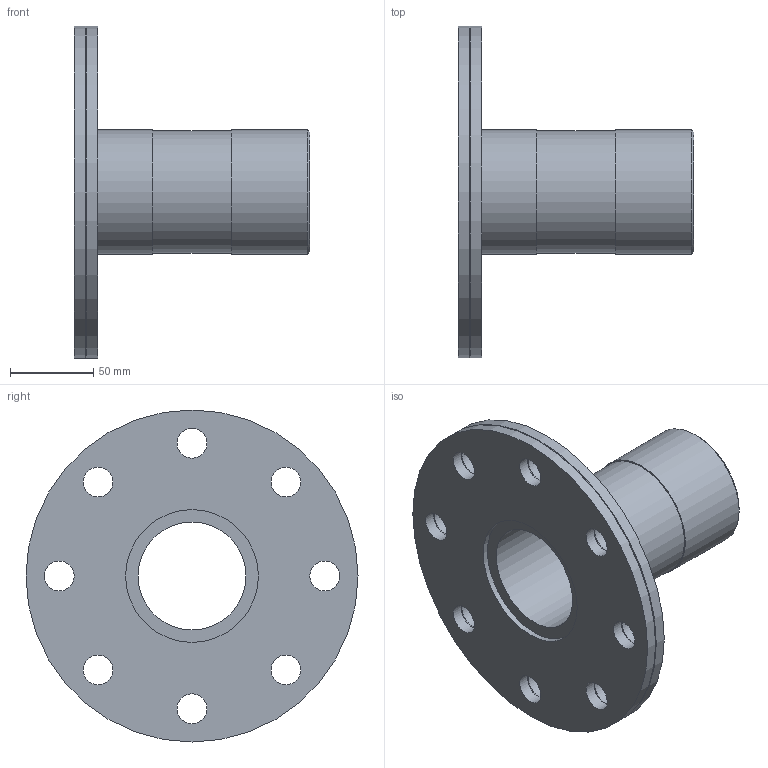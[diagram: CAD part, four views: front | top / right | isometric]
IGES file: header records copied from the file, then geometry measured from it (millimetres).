
Global section: file name: 0723060750300A.ipt; native system: Autodesk Inventor 2015; preprocessor: unknown; author: Кирилл,,11,0; organization: 20170224.180708; date: 20170608.042644; units: millimetre
Bounding box: 142 x 200 x 200 mm (x, y, z)
Volume: 474254.5 mm3; surface area: 130784.9 mm2
Topology: 1 solids, 1 shells, 50 faces, 147 edges, 104 vertices
Faces by surface type: revolution 35, plane 7, cylinder 5, cone 3
Full cylindrical faces by diameter (mm): 73.5 x1, 75 x2, 200 x2
